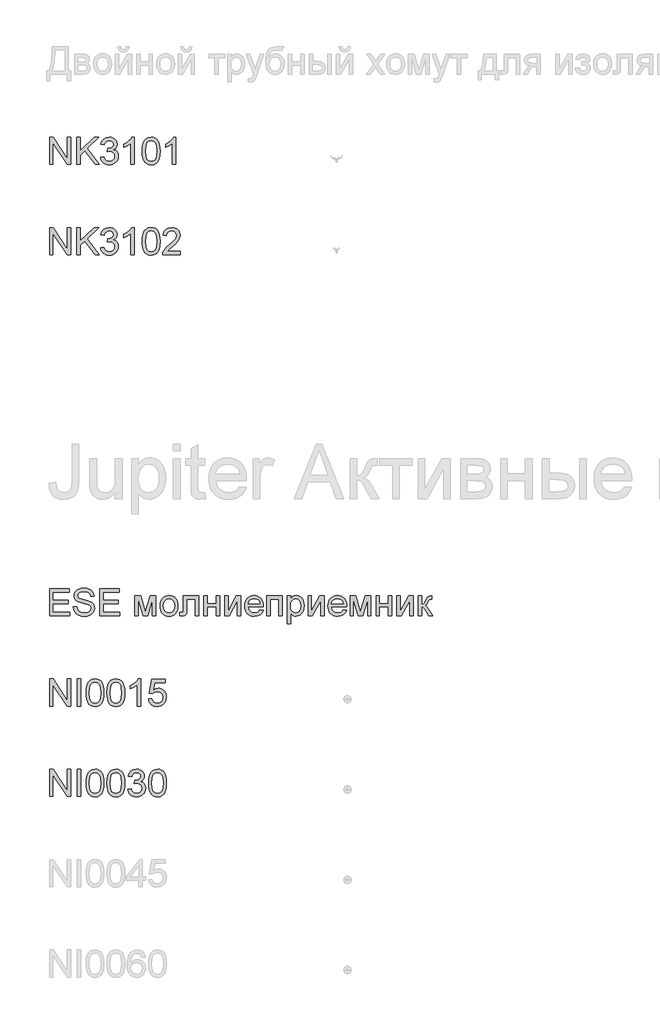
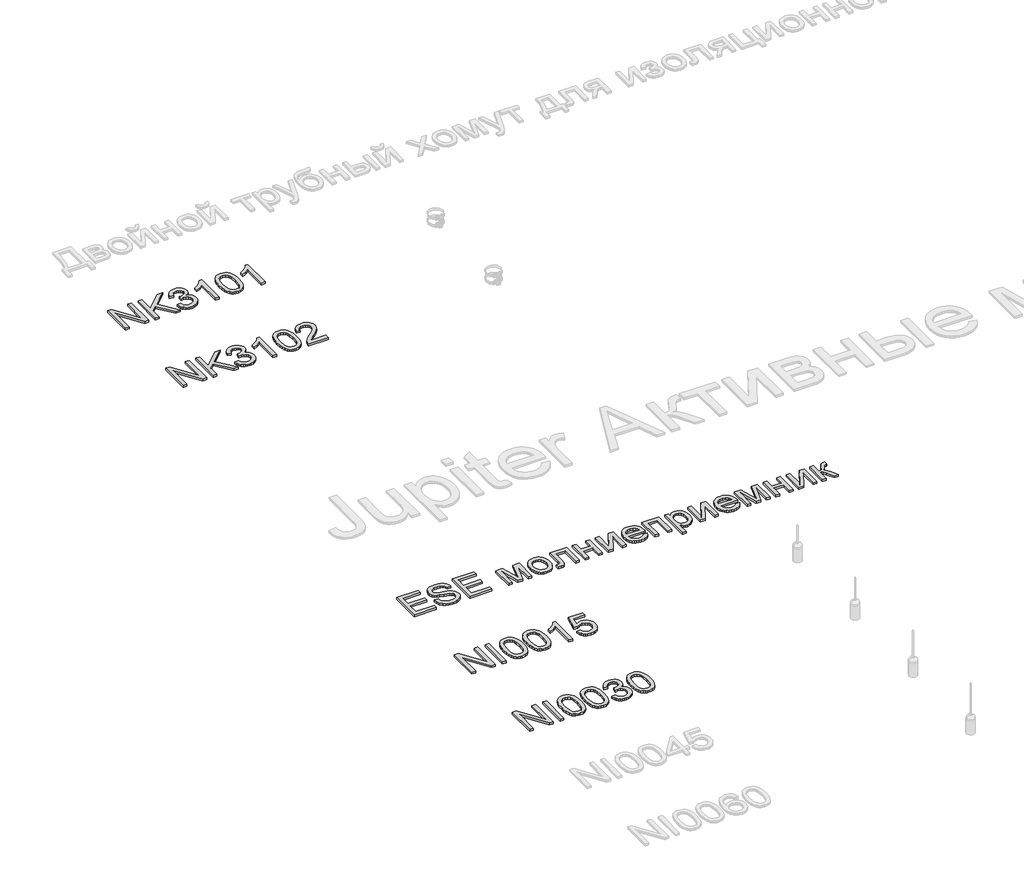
# One storey, part 12 of 124: 5 proxies.
"""IFC4 building model written with IfcOpenShell, lengths in millimetres."""

from ifc_helpers import new_model, si_unit, origin, origin_with_axes, place, context, project, spatial, polyline, outline, extrude, element, save

model = new_model("IFC4")

# Units and contexts
model_context = context("Model", 3, world=origin())
ifc_project = project(units=[si_unit("LENGTHUNIT", "METRE", prefix="MILLI")], contexts=[model_context])

# Site, building, storey
site = spatial("IfcSite", under=ifc_project)
building = spatial("IfcBuilding", under=site)
storey = spatial("IfcBuildingStorey", under=building, Name="Этаж 01", Elevation=0.0)

# Proxies
placement = place(None, origin())
element("IfcBuildingElementProxy", 1, Name="300", ObjectType="300", at=placement, inside=storey, context=model_context, shape_type="SweptSolid", body=[
    extrude(outline(polyline([(25399.8220677, -114548.8731539), (25399.8220677, -114247.5042234), (25440.1419344, -114247.5042234), (25597.5954283, -114486.2596383), (25597.5954283, -114247.5042234), (25635.2665446, -114247.5042234), (25635.2665446, -114548.8731539), (25594.9466779, -114548.8731539), (25437.493184, -114310.0441626), (25437.493184, -114548.8731539), (25399.8220677, -114548.8731539)])), origin_with_axes(), (0.0, 0.0, 1.0), 20.0),
    extrude(outline(polyline([(25701.1909981, -114548.8731539), (25701.1909981, -114247.5042234), (25738.8621144, -114247.5042234), (25738.8621144, -114395.0249035), (25893.3725524, -114247.5042234), (25946.0532541, -114247.5042234), (25816.3380626, -114371.4068794), (25950.7621437, -114548.8731539), (25904.7033179, -114548.8731539), (25789.6298298, -114396.8643135), (25738.8621144, -114445.277584), (25738.8621144, -114548.8731539), (25701.1909981, -114548.8731539)])), origin_with_axes(), (0.0, 0.0, 1.0), 20.0),
    extrude(outline(polyline([(25964.8888123, -114468.8220317), (26002.5599286, -114464.1131422), (26010.9936233, -114487.7863486), (26023.3452613, -114503.7708213), (26040.2218478, -114512.8759007), (26062.2303882, -114515.9109271), (26088.0557043, -114511.7354665), (26107.9949084, -114499.2090845), (26120.7420195, -114480.5206792), (26124.9910566, -114457.8591483), (26120.7788077, -114436.3472486), (26108.1420612, -114418.900445), (26089.0121975, -114407.3397533), (26065.320597, -114403.4861894), (26038.9066697, -114407.6064677), (26043.1005245, -114369.9353514), (26049.1337892, -114370.3768098), (26071.7033496, -114367.6728772), (26091.881677, -114359.5610792), (26106.1187102, -114345.8390807), (26110.864388, -114326.3045468), (26107.4246913, -114310.0349656), (26097.1056014, -114296.837199), (26081.360252, -114288.0908046), (26061.641777, -114285.1753397), (26041.8865139, -114288.1183957), (26025.7364943, -114296.9475636), (26013.9458763, -114311.6628434), (26007.2688181, -114332.2642351), (25969.5977018, -114327.5553456), (25980.689344, -114293.7285961), (26000.426213, -114268.4734972), (26027.4287515, -114252.7465419), (26060.3174018, -114247.5042234), (26083.9998053, -114250.0885945), (26105.7508282, -114257.8417075), (26124.0897457, -114270.0737838), (26137.5358326, -114286.0950447), (26145.7855864, -114304.5535238), (26148.5355043, -114324.0972548), (26145.9235421, -114342.3074136), (26138.0876556, -114358.8253152), (26125.1382094, -114372.8968015), (26107.185568, -114383.7677145), (26130.7668039, -114393.2958581), (26148.2411987, -114409.5194541), (26159.0569293, -114431.5555856), (26162.6621729, -114458.5213359), (26160.8595511, -114477.6328055), (26155.4516858, -114495.235959), (26146.4385769, -114511.3307963), (26133.8202245, -114525.9173174), (26118.4473556, -114538.020635), (26101.1706974, -114546.6658619), (26081.9902499, -114551.852998), (26060.906013, -114553.5820434), (26041.8497257, -114552.1059169), (26024.4856955, -114547.6775374), (26008.8139225, -114540.2969049), (25994.8344067, -114529.9640193), (25983.1127666, -114517.2858861), (25974.2146209, -114502.8695104), (25968.1399694, -114486.7148923), (25964.8888123, -114468.8220317)])), origin_with_axes(), (0.0, 0.0, 1.0), 20.0),
    extrude(outline(polyline([(26336.8910858, -114548.8731539), (26299.2199695, -114548.8731539), (26299.2199695, -114314.0172882), (26263.535416, -114339.437934), (26223.8777369, -114358.4574332), (26223.8777369, -114322.846456), (26253.4646464, -114306.7516188), (26279.0968244, -114287.6033609), (26299.302743, -114267.2410925), (26312.6108741, -114247.5042234), (26336.8910858, -114247.5042234), (26336.8910858, -114548.8731539)])), origin_with_axes(), (0.0, 0.0, 1.0), 20.0),
    extrude(outline(polyline([(26426.359987, -114400.6167098), (26429.128299, -114352.3781832), (26437.4332351, -114313.9069236), (26451.1920217, -114284.6143197), (26470.3218855, -114263.9117604), (26494.9607821, -114251.6061077), (26525.2466673, -114247.5042234), (26548.4600212, -114249.9322446), (26569.245354, -114257.2163081), (26586.6277782, -114269.0713054), (26599.6324068, -114285.2121279), (26609.454856, -114305.50082), (26617.2907425, -114329.7994258), (26622.4226964, -114360.6555281), (26624.1333476, -114400.6167098), (26621.3926268, -114448.579325), (26613.1704642, -114486.9586141), (26599.494451, -114516.2788091), (26580.3921784, -114537.0641418), (26555.6980995, -114549.452568), (26525.2466673, -114553.5820434), (26504.4981228, -114551.7886187), (26486.1040231, -114546.4083445), (26470.0643681, -114537.4412209), (26456.3791578, -114524.8872478), (26443.2457706, -114502.1935272), (26433.8647797, -114473.9171974), (26428.2361852, -114440.0582582), (26426.359987, -114400.6167098)]), holes=[polyline([(26464.0311033, -114400.5431334), (26468.4456873, -114459.7997258), (26473.9639172, -114480.0677245), (26481.6894391, -114494.0955248), (26501.4079141, -114510.4570765), (26525.2466673, -114515.9109271), (26549.0854206, -114510.4386824), (26568.8038956, -114494.0219484), (26576.5294175, -114479.9711555), (26582.0476474, -114459.7077553), (26586.4622313, -114400.5431334), (26582.1948002, -114342.6201133), (26576.8605113, -114322.4187932), (26569.3925068, -114308.0575998), (26549.71082, -114290.8959048), (26524.8052089, -114285.1753397), (26501.2239731, -114290.2153231), (26482.2780503, -114305.3352731), (26474.295011, -114320.9702579), (26468.5928401, -114342.0498962), (26464.0311033, -114400.5431334)])]), origin_with_axes(), (0.0, 0.0, 1.0), 20.0),
    extrude(outline(polyline([(26798.3622606, -114548.8731539), (26760.6911443, -114548.8731539), (26760.6911443, -114314.0172882), (26725.0065907, -114339.437934), (26685.3489116, -114358.4574332), (26685.3489116, -114322.846456), (26714.9358211, -114306.7516188), (26740.5679991, -114287.6033609), (26760.7739177, -114267.2410925), (26774.0820489, -114247.5042234), (26798.3622606, -114247.5042234), (26798.3622606, -114548.8731539)])), origin_with_axes(), (0.0, 0.0, 1.0), 20.0),
])
element("IfcBuildingElementProxy", 2, Name="300", ObjectType="300", at=placement, inside=storey, context=model_context, shape_type="SweptSolid", body=[
    extrude(outline(polyline([(25399.8220677, -115548.8731539), (25399.8220677, -115247.5042234), (25440.1419344, -115247.5042234), (25597.5954283, -115486.2596383), (25597.5954283, -115247.5042234), (25635.2665446, -115247.5042234), (25635.2665446, -115548.8731539), (25594.9466779, -115548.8731539), (25437.493184, -115310.0441626), (25437.493184, -115548.8731539), (25399.8220677, -115548.8731539)])), origin_with_axes(), (0.0, 0.0, 1.0), 20.0),
    extrude(outline(polyline([(25701.1909981, -115548.8731539), (25701.1909981, -115247.5042234), (25738.8621144, -115247.5042234), (25738.8621144, -115395.0249035), (25893.3725524, -115247.5042234), (25946.0532541, -115247.5042234), (25816.3380626, -115371.4068794), (25950.7621437, -115548.8731539), (25904.7033179, -115548.8731539), (25789.6298298, -115396.8643135), (25738.8621144, -115445.277584), (25738.8621144, -115548.8731539), (25701.1909981, -115548.8731539)])), origin_with_axes(), (0.0, 0.0, 1.0), 20.0),
    extrude(outline(polyline([(25964.8888123, -115468.8220317), (26002.5599286, -115464.1131422), (26010.9936233, -115487.7863486), (26023.3452613, -115503.7708213), (26040.2218478, -115512.8759007), (26062.2303882, -115515.9109271), (26088.0557043, -115511.7354665), (26107.9949084, -115499.2090845), (26120.7420195, -115480.5206792), (26124.9910566, -115457.8591483), (26120.7788077, -115436.3472486), (26108.1420612, -115418.900445), (26089.0121975, -115407.3397533), (26065.320597, -115403.4861894), (26038.9066697, -115407.6064677), (26043.1005245, -115369.9353514), (26049.1337892, -115370.3768098), (26071.7033496, -115367.6728772), (26091.881677, -115359.5610792), (26106.1187102, -115345.8390807), (26110.864388, -115326.3045468), (26107.4246913, -115310.0349656), (26097.1056014, -115296.837199), (26081.360252, -115288.0908046), (26061.641777, -115285.1753397), (26041.8865139, -115288.1183957), (26025.7364943, -115296.9475636), (26013.9458763, -115311.6628434), (26007.2688181, -115332.2642351), (25969.5977018, -115327.5553456), (25980.689344, -115293.7285961), (26000.426213, -115268.4734972), (26027.4287515, -115252.7465419), (26060.3174018, -115247.5042234), (26083.9998053, -115250.0885945), (26105.7508282, -115257.8417075), (26124.0897457, -115270.0737838), (26137.5358326, -115286.0950447), (26145.7855864, -115304.5535238), (26148.5355043, -115324.0972548), (26145.9235421, -115342.3074136), (26138.0876556, -115358.8253152), (26125.1382094, -115372.8968015), (26107.185568, -115383.7677145), (26130.7668039, -115393.2958581), (26148.2411987, -115409.5194541), (26159.0569293, -115431.5555856), (26162.6621729, -115458.5213359), (26160.8595511, -115477.6328055), (26155.4516858, -115495.235959), (26146.4385769, -115511.3307963), (26133.8202245, -115525.9173174), (26118.4473556, -115538.020635), (26101.1706974, -115546.6658619), (26081.9902499, -115551.852998), (26060.906013, -115553.5820434), (26041.8497257, -115552.1059169), (26024.4856955, -115547.6775374), (26008.8139225, -115540.2969049), (25994.8344067, -115529.9640193), (25983.1127666, -115517.2858861), (25974.2146209, -115502.8695104), (25968.1399694, -115486.7148923), (25964.8888123, -115468.8220317)])), origin_with_axes(), (0.0, 0.0, 1.0), 20.0),
    extrude(outline(polyline([(26336.8910858, -115548.8731539), (26299.2199695, -115548.8731539), (26299.2199695, -115314.0172882), (26263.535416, -115339.437934), (26223.8777369, -115358.4574332), (26223.8777369, -115322.846456), (26253.4646464, -115306.7516188), (26279.0968244, -115287.6033609), (26299.302743, -115267.2410925), (26312.6108741, -115247.5042234), (26336.8910858, -115247.5042234), (26336.8910858, -115548.8731539)])), origin_with_axes(), (0.0, 0.0, 1.0), 20.0),
    extrude(outline(polyline([(26426.359987, -115400.6167098), (26429.128299, -115352.3781832), (26437.4332351, -115313.9069236), (26451.1920217, -115284.6143197), (26470.3218855, -115263.9117604), (26494.9607821, -115251.6061077), (26525.2466673, -115247.5042234), (26548.4600212, -115249.9322446), (26569.245354, -115257.2163081), (26586.6277782, -115269.0713054), (26599.6324068, -115285.2121279), (26609.454856, -115305.50082), (26617.2907425, -115329.7994258), (26622.4226964, -115360.6555281), (26624.1333476, -115400.6167098), (26621.3926268, -115448.579325), (26613.1704642, -115486.9586141), (26599.494451, -115516.2788091), (26580.3921784, -115537.0641418), (26555.6980995, -115549.452568), (26525.2466673, -115553.5820434), (26504.4981228, -115551.7886187), (26486.1040231, -115546.4083445), (26470.0643681, -115537.4412209), (26456.3791578, -115524.8872478), (26443.2457706, -115502.1935272), (26433.8647797, -115473.9171974), (26428.2361852, -115440.0582582), (26426.359987, -115400.6167098)]), holes=[polyline([(26464.0311033, -115400.5431334), (26468.4456873, -115459.7997258), (26473.9639172, -115480.0677245), (26481.6894391, -115494.0955248), (26501.4079141, -115510.4570765), (26525.2466673, -115515.9109271), (26549.0854206, -115510.4386824), (26568.8038956, -115494.0219484), (26576.5294175, -115479.9711555), (26582.0476474, -115459.7077553), (26586.4622313, -115400.5431334), (26582.1948002, -115342.6201133), (26576.8605113, -115322.4187932), (26569.3925068, -115308.0575998), (26549.71082, -115290.8959048), (26524.8052089, -115285.1753397), (26501.2239731, -115290.2153231), (26482.2780503, -115305.3352731), (26474.295011, -115320.9702579), (26468.5928401, -115342.0498962), (26464.0311033, -115400.5431334)])]), origin_with_axes(), (0.0, 0.0, 1.0), 20.0),
    extrude(outline(polyline([(26850.1600455, -115511.2020376), (26850.1600455, -115548.8731539), (26652.3866849, -115548.8731539), (26656.4333868, -115522.900685), (26665.7224072, -115502.6027959), (26679.3156469, -115482.9119122), (26698.9789396, -115462.3013234), (26726.4781187, -115439.2443193), (26767.1290792, -115403.1367015), (26791.5196554, -115376.4836509), (26803.7149436, -115354.8521896), (26807.7800396, -115333.8093395), (26803.9448698, -115314.9461902), (26792.4393604, -115299.2652202), (26774.7534335, -115288.6978098), (26752.3770112, -115285.1753397), (26728.8785487, -115288.6150364), (26710.6224047, -115298.9341264), (26698.8409838, -115315.3232692), (26694.7666907, -115336.9731247), (26657.0955744, -115332.2642351), (26666.2282449, -115295.8255235), (26674.7746035, -115281.2895862), (26685.974311, -115269.2092612), (26699.56985, -115259.7133072), (26715.3037031, -115252.9304829), (26753.1863516, -115247.5042234), (26773.3761753, -115249.0125396), (26791.3449115, -115253.5374882), (26807.0925602, -115261.0790691), (26820.6191213, -115271.6372823), (26831.4831364, -115284.4303787), (26839.2431473, -115298.676609), (26843.8991538, -115314.3759731), (26845.4511559, -115331.5284711), (26843.7772929, -115349.5454918), (26838.7557036, -115367.2498129), (26829.8437623, -115385.2576365), (26816.4988429, -115404.1851652), (26795.2260665, -115426.7823167), (26762.5305542, -115455.7990091), (26719.1940552, -115492.0353856), (26702.197907, -115511.2020376), (26850.1600455, -115511.2020376)])), origin_with_axes(), (0.0, 0.0, 1.0), 20.0),
])
element("IfcBuildingElementProxy", 3, Name="300", ObjectType="300", at=placement, inside=storey, context=model_context, shape_type="SweptSolid", body=[
    extrude(outline(polyline([(25399.8220677, -119548.8731539), (25399.8220677, -119247.5042234), (25616.4309865, -119247.5042234), (25616.4309865, -119285.1753397), (25437.493184, -119285.1753397), (25437.493184, -119374.644241), (25607.0132074, -119374.644241), (25607.0132074, -119412.3153573), (25437.493184, -119412.3153573), (25437.493184, -119511.2020376), (25621.139876, -119511.2020376), (25621.139876, -119548.8731539), (25399.8220677, -119548.8731539)])), origin_with_axes(), (0.0, 0.0, 1.0), 20.0),
    extrude(outline(polyline([(25663.5198818, -119445.277584), (25701.1909981, -119445.277584), (25705.5136116, -119466.1824784), (25713.331104, -119482.9854885), (25725.5263921, -119496.3212109), (25742.9823928, -119506.8242418), (25764.3195485, -119513.6392558), (25788.1583018, -119515.9109271), (25809.1459696, -119514.1910788), (25827.5216753, -119509.0315338), (25842.411699, -119500.8645535), (25852.9423212, -119490.1223993), (25859.2055121, -119477.7891554), (25861.2932424, -119464.8489062), (25859.729744, -119452.2397508), (25855.0392485, -119441.3412467), (25845.5111049, -119432.0430293), (25829.4346617, -119424.2347339), (25774.5834562, -119409.8505479), (25738.5770059, -119400.3316013), (25715.538396, -119391.2725072), (25696.7856113, -119378.5989724), (25683.4958742, -119363.2398991), (25675.5772142, -119345.5263811), (25672.9376609, -119325.789512), (25676.2026136, -119303.7257893), (25685.9974717, -119283.1519888), (25702.0647179, -119265.7143822), (25724.1468346, -119253.0592416), (25750.6527324, -119245.3613108), (25779.9913215, -119242.7953339), (25811.7763259, -119245.4808725), (25839.5882047, -119253.5374882), (25862.4336766, -119266.7996341), (25879.3194602, -119285.1017633), (25890.0064322, -119307.3034418), (25894.2554692, -119332.2642351), (25856.5843529, -119332.2642351), (25849.6681714, -119309.7866452), (25835.2471972, -119293.5630492), (25812.714425, -119283.7406), (25781.4628495, -119280.4664502), (25749.47551, -119283.7038118), (25727.531349, -119293.4158964), (25714.8394202, -119307.7081119), (25710.6087772, -119324.685866), (25713.6070155, -119339.1620225), (25722.6017303, -119350.8054877), (25743.8653096, -119361.2165481), (25784.1115999, -119371.8483378), (25825.6454771, -119381.9466986), (25850.7718174, -119390.7574724), (25872.2469288, -119404.4242885), (25887.2289231, -119421.291678), (25896.0304998, -119441.1756998), (25898.9643587, -119463.892413), (25895.5890414, -119487.1149639), (25885.4630895, -119508.9579574), (25869.0003702, -119527.7567274), (25846.6147508, -119541.8466078), (25819.6949858, -119550.6481845), (25789.6298298, -119553.5820434), (25752.7220686, -119550.4182583), (25722.3442129, -119540.9269028), (25698.1467746, -119525.0711888), (25679.780266, -119502.8143281), (25667.9896481, -119475.701425), (25663.5198818, -119445.277584)])), origin_with_axes(), (0.0, 0.0, 1.0), 20.0),
    extrude(outline(polyline([(25955.4710332, -119548.8731539), (25955.4710332, -119247.5042234), (26172.079952, -119247.5042234), (26172.079952, -119285.1753397), (25993.1421495, -119285.1753397), (25993.1421495, -119374.644241), (26162.6621729, -119374.644241), (26162.6621729, -119412.3153573), (25993.1421495, -119412.3153573), (25993.1421495, -119511.2020376), (26176.7888415, -119511.2020376), (26176.7888415, -119548.8731539), (25955.4710332, -119548.8731539)])), origin_with_axes(), (0.0, 0.0, 1.0), 20.0),
    extrude(outline(polyline([(26346.3088649, -119327.5553456), (26411.1296724, -119327.5553456), (26461.0880474, -119504.7273145), (26514.9459715, -119327.5553456), (26577.0444523, -119327.5553456), (26577.0444523, -119548.8731539), (26539.373336, -119548.8731539), (26539.373336, -119370.6711154), (26485.2211063, -119548.8731539), (26435.7777661, -119548.8731539), (26383.9799812, -119362.1362531), (26383.9799812, -119548.8731539), (26346.3088649, -119548.8731539), (26346.3088649, -119327.5553456)])), origin_with_axes(), (0.0, 0.0, 1.0), 20.0),
    extrude(outline(polyline([(26624.1333476, -119438.2142497), (26626.1704942, -119409.5516438), (26632.2819338, -119384.8529663), (26642.4676666, -119364.1182174), (26656.7276924, -119347.3473969), (26671.0842873, -119336.6282353), (26686.9308042, -119328.9716913), (26704.2672432, -119324.3777649), (26723.0936043, -119322.846456), (26743.8766378, -119324.7111579), (26762.66851, -119330.3052635), (26779.4692208, -119339.6287728), (26794.2787704, -119352.6816859), (26806.3659932, -119369.0225442), (26814.9997238, -119388.2098895), (26820.1799621, -119410.2437218), (26821.9067082, -119435.124041), (26818.8532877, -119473.1814334), (26809.693026, -119502.1521405), (26794.6926377, -119523.8479812), (26774.1188371, -119540.0807742), (26749.6822755, -119550.2067261), (26723.0936043, -119553.5820434), (26702.0070682, -119551.7242393), (26683.0404521, -119546.1508271), (26666.193756, -119536.8618067), (26651.4669799, -119523.8571782), (26639.5085158, -119507.3576707), (26630.9667557, -119487.5840135), (26625.8416997, -119464.5362065), (26624.1333476, -119438.2142497)]), holes=[polyline([(26661.8044639, -119438.1406733), (26666.1638656, -119472.2341372), (26679.2420705, -119496.523546), (26698.9237573, -119511.0640818), (26723.0936043, -119515.9109271), (26747.1530868, -119511.0364907), (26766.7979854, -119496.4131814), (26779.8761903, -119471.8018759), (26784.2355919, -119436.963451), (26779.8485992, -119403.8632684), (26766.6876208, -119379.9049535), (26747.0151311, -119365.3644176), (26723.0936043, -119360.5175724), (26698.9237573, -119365.3460235), (26679.2420705, -119379.8313771), (26666.1638656, -119404.0656035), (26661.8044639, -119438.1406733)])]), origin_with_axes(), (0.0, 0.0, 1.0), 20.0),
    extrude(outline(polyline([(26883.1222722, -119327.5553456), (27052.6422956, -119327.5553456), (27052.6422956, -119548.6524247), (27014.9711793, -119548.6524247), (27014.9711793, -119365.2264619), (26920.7933886, -119365.2264619), (26920.7933886, -119470.8085945), (26918.2550028, -119519.5161707), (26913.500128, -119530.5434335), (26904.3122752, -119540.0807742), (26890.3695476, -119546.675059), (26871.3500484, -119548.8731539), (26840.7422664, -119546.9601675), (26840.7422664, -119511.2020376), (26857.5912618, -119511.2020376), (26874.6241982, -119508.884381), (26881.4300151, -119501.5267411), (26883.1222722, -119468.6748789), (26883.1222722, -119327.5553456)])), origin_with_axes(), (0.0, 0.0, 1.0), 20.0),
    extrude(outline(polyline([(27109.1489701, -119327.5553456), (27146.8200864, -119327.5553456), (27146.8200864, -119412.3153573), (27245.7067667, -119412.3153573), (27245.7067667, -119327.5553456), (27283.377883, -119327.5553456), (27283.377883, -119548.8731539), (27245.7067667, -119548.8731539), (27245.7067667, -119449.9864736), (27146.8200864, -119449.9864736), (27146.8200864, -119548.8731539), (27109.1489701, -119548.8731539), (27109.1489701, -119327.5553456)])), origin_with_axes(), (0.0, 0.0, 1.0), 20.0),
    extrude(outline(polyline([(27339.8845575, -119327.5553456), (27377.5556738, -119327.5553456), (27377.5556738, -119496.339605), (27470.1147838, -119327.5553456), (27518.8223599, -119327.5553456), (27518.8223599, -119548.8731539), (27481.1512436, -119548.8731539), (27481.1512436, -119381.1189641), (27389.1807448, -119548.8731539), (27339.8845575, -119548.8731539), (27339.8845575, -119327.5553456)])), origin_with_axes(), (0.0, 0.0, 1.0), 20.0),
    extrude(outline(polyline([(27730.2809307, -119482.9487003), (27767.2162831, -119487.6575899), (27753.9081519, -119515.4878628), (27732.6721637, -119536.2915897), (27703.9865651, -119549.25943), (27668.3296028, -119553.5820434), (27644.9553005, -119551.7173416), (27624.128581, -119546.123236), (27605.8494444, -119536.7997267), (27590.1178906, -119523.7468136), (27577.4673485, -119507.3277803), (27568.431247, -119487.9059102), (27563.0095861, -119465.4812034), (27561.2023658, -119440.0536597), (27563.0279802, -119413.7638926), (27568.5048234, -119390.5919255), (27577.6328954, -119370.5377582), (27590.4121962, -119353.6013908), (27606.1023633, -119340.1461069), (27623.9630341, -119330.5351897), (27643.9942088, -119324.7686395), (27666.1958872, -119322.846456), (27687.682495, -119324.7640409), (27707.1135621, -119330.5167956), (27724.4890886, -119340.1047201), (27739.8090744, -119353.5278144), (27752.314763, -119370.4273936), (27761.2473977, -119390.4447727), (27766.6069785, -119413.5799516), (27768.3935054, -119439.8329305), (27768.1727762, -119449.9864736), (27598.8734821, -119449.9864736), (27605.3941904, -119478.1846285), (27620.5417316, -119498.9147789), (27642.4031191, -119511.6618901), (27669.0653667, -119515.9109271), (27689.1149355, -119513.9427584), (27706.0007191, -119508.0382524), (27719.7227175, -119497.8295271), (27730.2809307, -119482.9487003)]), holes=[polyline([(27598.8734821, -119412.3153573), (27730.7223891, -119412.3153573), (27725.6272235, -119392.4129413), (27715.6392273, -119378.1759081), (27693.6766722, -119364.9321563), (27666.0487344, -119360.5175724), (27640.6556797, -119364.0400425), (27619.6588148, -119374.6074528), (27605.0630966, -119391.0793691), (27598.8734821, -119412.3153573)])]), origin_with_axes(), (0.0, 0.0, 1.0), 20.0),
    extrude(outline(polyline([(27806.0646217, -119327.5553456), (27975.5846451, -119327.5553456), (27975.5846451, -119548.8731539), (27937.9135288, -119548.8731539), (27937.9135288, -119365.2264619), (27843.7357381, -119365.2264619), (27843.7357381, -119548.8731539), (27806.0646217, -119548.8731539), (27806.0646217, -119327.5553456)])), origin_with_axes(), (0.0, 0.0, 1.0), 20.0),
    extrude(outline(polyline([(28032.0913196, -119633.6331656), (28032.0913196, -119327.5553456), (28069.7624359, -119327.5553456), (28069.7624359, -119364.4906979), (28082.0496945, -119346.2713421), (28095.8084811, -119333.2575165), (28111.8481361, -119325.4492212), (28130.9779999, -119322.846456), (28156.4538281, -119326.4884878), (28178.7290829, -119337.4145831), (28196.8656652, -119354.9625542), (28209.9254761, -119378.4702137), (28217.8165448, -119406.2269103), (28220.4469011, -119436.5219926), (28217.476254, -119468.7392583), (28208.5643127, -119497.5536156), (28193.9961857, -119521.5027334), (28174.0569815, -119539.124281), (28150.8344306, -119549.9676028), (28126.4162631, -119553.5820434), (28109.0982182, -119551.1632193), (28093.6379774, -119543.906747), (28080.4034226, -119532.9530605), (28069.7624359, -119519.4425943), (28069.7624359, -119633.6331656), (28032.0913196, -119633.6331656)]), holes=[polyline([(28069.7624359, -119439.9800833), (28073.836729, -119473.7516505), (28086.0596083, -119497.3696746), (28104.0950231, -119511.275614), (28125.6069228, -119515.9109271), (28147.4683103, -119511.1100671), (28165.9635776, -119496.707487), (28178.572733, -119472.2249402), (28182.7757848, -119437.1841801), (28178.6739006, -119403.596554), (28166.3682478, -119379.6474361), (28148.3604242, -119365.3000383), (28127.1520271, -119360.5175724), (28105.8608567, -119365.6035409), (28087.1632543, -119380.8614467), (28074.1126405, -119405.813043), (28069.7624359, -119439.9800833)])]), origin_with_axes(), (0.0, 0.0, 1.0), 20.0),
    extrude(outline(polyline([(28262.826907, -119327.5553456), (28300.4980233, -119327.5553456), (28300.4980233, -119496.339605), (28393.0571333, -119327.5553456), (28441.7647094, -119327.5553456), (28441.7647094, -119548.8731539), (28404.0935931, -119548.8731539), (28404.0935931, -119381.1189641), (28312.1230943, -119548.8731539), (28262.826907, -119548.8731539), (28262.826907, -119327.5553456)])), origin_with_axes(), (0.0, 0.0, 1.0), 20.0),
    extrude(outline(polyline([(28653.2232802, -119482.9487003), (28690.1586326, -119487.6575899), (28676.8505014, -119515.4878628), (28655.6145132, -119536.2915897), (28626.9289146, -119549.25943), (28591.2719523, -119553.5820434), (28567.89765, -119551.7173416), (28547.0709305, -119546.123236), (28528.7917939, -119536.7997267), (28513.0602401, -119523.7468136), (28500.409698, -119507.3277803), (28491.3735965, -119487.9059102), (28485.9519356, -119465.4812034), (28484.1447153, -119440.0536597), (28485.9703297, -119413.7638926), (28491.4471729, -119390.5919255), (28500.5752449, -119370.5377582), (28513.3545457, -119353.6013908), (28529.0447128, -119340.1461069), (28546.9053836, -119330.5351897), (28566.9365583, -119324.7686395), (28589.1382367, -119322.846456), (28610.6248445, -119324.7640409), (28630.0559116, -119330.5167956), (28647.4314381, -119340.1047201), (28662.7514239, -119353.5278144), (28675.2571125, -119370.4273936), (28684.1897472, -119390.4447727), (28689.549328, -119413.5799516), (28691.3358549, -119439.8329305), (28691.1151257, -119449.9864736), (28521.8158316, -119449.9864736), (28528.3365399, -119478.1846285), (28543.4840811, -119498.9147789), (28565.3454686, -119511.6618901), (28592.0077162, -119515.9109271), (28612.057285, -119513.9427584), (28628.9430686, -119508.0382524), (28642.665067, -119497.8295271), (28653.2232802, -119482.9487003)]), holes=[polyline([(28521.8158316, -119412.3153573), (28653.6647386, -119412.3153573), (28648.569573, -119392.4129413), (28638.5815768, -119378.1759081), (28616.6190217, -119364.9321563), (28588.9910839, -119360.5175724), (28563.5980292, -119364.0400425), (28542.6011643, -119374.6074528), (28528.0054461, -119391.0793691), (28521.8158316, -119412.3153573)])]), origin_with_axes(), (0.0, 0.0, 1.0), 20.0),
    extrude(outline(polyline([(28729.0069712, -119327.5553456), (28793.8277788, -119327.5553456), (28843.7861537, -119504.7273145), (28897.6440778, -119327.5553456), (28959.7425586, -119327.5553456), (28959.7425586, -119548.8731539), (28922.0714423, -119548.8731539), (28922.0714423, -119370.6711154), (28867.9192126, -119548.8731539), (28818.4758725, -119548.8731539), (28766.6780876, -119362.1362531), (28766.6780876, -119548.8731539), (28729.0069712, -119548.8731539), (28729.0069712, -119327.5553456)])), origin_with_axes(), (0.0, 0.0, 1.0), 20.0),
    extrude(outline(polyline([(29016.2492331, -119327.5553456), (29053.9203494, -119327.5553456), (29053.9203494, -119412.3153573), (29152.8070297, -119412.3153573), (29152.8070297, -119327.5553456), (29190.478146, -119327.5553456), (29190.478146, -119548.8731539), (29152.8070297, -119548.8731539), (29152.8070297, -119449.9864736), (29053.9203494, -119449.9864736), (29053.9203494, -119548.8731539), (29016.2492331, -119548.8731539), (29016.2492331, -119327.5553456)])), origin_with_axes(), (0.0, 0.0, 1.0), 20.0),
    extrude(outline(polyline([(29246.9848205, -119327.5553456), (29284.6559368, -119327.5553456), (29284.6559368, -119496.339605), (29377.2150467, -119327.5553456), (29425.9226229, -119327.5553456), (29425.9226229, -119548.8731539), (29388.2515066, -119548.8731539), (29388.2515066, -119381.1189641), (29296.2810078, -119548.8731539), (29246.9848205, -119548.8731539), (29246.9848205, -119327.5553456)])), origin_with_axes(), (0.0, 0.0, 1.0), 20.0),
    extrude(outline(polyline([(29482.4292974, -119327.5553456), (29520.1004137, -119327.5553456), (29520.1004137, -119421.7331364), (29535.4226988, -119420.0408792), (29545.3371185, -119414.9641076), (29554.1111041, -119401.7203558), (29566.0120867, -119375.5271578), (29583.1921758, -119341.4980732), (29598.348914, -119330.4248251), (29625.9032755, -119327.5553456), (29633.1137626, -119327.5553456), (29633.1137626, -119365.4471911), (29622.9602195, -119365.2264619), (29604.5661198, -119369.1995874), (29591.6166735, -119393.9948339), (29576.4231471, -119420.8134314), (29555.1227796, -119433.9468186), (29567.0605504, -119439.2489178), (29578.8879565, -119448.6069161), (29602.211675, -119479.4906096), (29642.5315417, -119548.8731539), (29599.7100774, -119548.8731539), (29560.1995511, -119480.9621376), (29540.3339234, -119452.2305538), (29531.044903, -119447.0158265), (29520.1004137, -119445.277584), (29520.1004137, -119548.8731539), (29482.4292974, -119548.8731539), (29482.4292974, -119327.5553456)])), origin_with_axes(), (0.0, 0.0, 1.0), 20.0),
])
element("IfcBuildingElementProxy", 4, Name="300", ObjectType="300", at=placement, inside=storey, context=model_context, shape_type="SweptSolid", body=[
    extrude(outline(polyline([(25399.8220677, -120548.8731539), (25399.8220677, -120247.5042234), (25440.1419344, -120247.5042234), (25597.5954283, -120486.2596383), (25597.5954283, -120247.5042234), (25635.2665446, -120247.5042234), (25635.2665446, -120548.8731539), (25594.9466779, -120548.8731539), (25437.493184, -120310.0441626), (25437.493184, -120548.8731539), (25399.8220677, -120548.8731539)])), origin_with_axes(), (0.0, 0.0, 1.0), 20.0),
    extrude(outline(polyline([(25705.8998877, -120548.8731539), (25705.8998877, -120247.5042234), (25743.571004, -120247.5042234), (25743.571004, -120548.8731539), (25705.8998877, -120548.8731539)])), origin_with_axes(), (0.0, 0.0, 1.0), 20.0),
    extrude(outline(polyline([(25804.786568, -120400.6167098), (25807.55488, -120352.3781832), (25815.859816, -120313.9069236), (25829.6186027, -120284.6143197), (25848.7484664, -120263.9117604), (25873.387363, -120251.6061077), (25903.6732483, -120247.5042234), (25926.8866022, -120249.9322446), (25947.6719349, -120257.2163081), (25965.0543592, -120269.0713054), (25978.0589877, -120285.2121279), (25987.881437, -120305.50082), (25995.7173235, -120329.7994258), (26000.8492773, -120360.6555281), (26002.5599286, -120400.6167098), (25999.8192077, -120448.579325), (25991.5970451, -120486.9586141), (25977.921032, -120516.2788091), (25958.8187594, -120537.0641418), (25934.1246804, -120549.452568), (25903.6732483, -120553.5820434), (25882.9247038, -120551.7886187), (25864.530604, -120546.4083445), (25848.490949, -120537.4412209), (25834.8057388, -120524.8872478), (25821.6723516, -120502.1935272), (25812.2913607, -120473.9171974), (25806.6627662, -120440.0582582), (25804.786568, -120400.6167098)]), holes=[polyline([(25842.4576843, -120400.5431334), (25846.8722682, -120459.7997258), (25852.3904982, -120480.0677245), (25860.1160201, -120494.0955248), (25879.834495, -120510.4570765), (25903.6732483, -120515.9109271), (25927.5120016, -120510.4386824), (25947.2304765, -120494.0219484), (25954.9559984, -120479.9711555), (25960.4742283, -120459.7077553), (25964.8888123, -120400.5431334), (25960.6213811, -120342.6201133), (25955.2870922, -120322.4187932), (25947.8190877, -120308.0575998), (25928.137401, -120290.8959048), (25903.2317899, -120285.1753397), (25879.650554, -120290.2153231), (25860.7046313, -120305.3352731), (25852.721592, -120320.9702579), (25847.019421, -120342.0498962), (25842.4576843, -120400.5431334)])]), origin_with_axes(), (0.0, 0.0, 1.0), 20.0),
    extrude(outline(polyline([(26035.5221554, -120400.6167098), (26038.2904674, -120352.3781832), (26046.5954034, -120313.9069236), (26060.35419, -120284.6143197), (26079.4840538, -120263.9117604), (26104.1229504, -120251.6061077), (26134.4088357, -120247.5042234), (26157.6221896, -120249.9322446), (26178.4075223, -120257.2163081), (26195.7899466, -120269.0713054), (26208.7945751, -120285.2121279), (26218.6170244, -120305.50082), (26226.4529109, -120329.7994258), (26231.5848647, -120360.6555281), (26233.295516, -120400.6167098), (26230.5547951, -120448.579325), (26222.3326325, -120486.9586141), (26208.6566193, -120516.2788091), (26189.5543467, -120537.0641418), (26164.8602678, -120549.452568), (26134.4088357, -120553.5820434), (26113.6602911, -120551.7886187), (26095.2661914, -120546.4083445), (26079.2265364, -120537.4412209), (26065.5413262, -120524.8872478), (26052.4079389, -120502.1935272), (26043.0269481, -120473.9171974), (26037.3983535, -120440.0582582), (26035.5221554, -120400.6167098)]), holes=[polyline([(26073.1932717, -120400.5431334), (26077.6078556, -120459.7997258), (26083.1260855, -120480.0677245), (26090.8516074, -120494.0955248), (26110.5700824, -120510.4570765), (26134.4088357, -120515.9109271), (26158.247589, -120510.4386824), (26177.9660639, -120494.0219484), (26185.6915858, -120479.9711555), (26191.2098157, -120459.7077553), (26195.6243997, -120400.5431334), (26191.3569685, -120342.6201133), (26186.0226796, -120322.4187932), (26178.5546751, -120308.0575998), (26158.8729883, -120290.8959048), (26133.9673773, -120285.1753397), (26110.3861414, -120290.2153231), (26091.4402186, -120305.3352731), (26083.4571793, -120320.9702579), (26077.7550084, -120342.0498962), (26073.1932717, -120400.5431334)])]), origin_with_axes(), (0.0, 0.0, 1.0), 20.0),
    extrude(outline(polyline([(26407.5244289, -120548.8731539), (26369.8533126, -120548.8731539), (26369.8533126, -120314.0172882), (26334.168759, -120339.437934), (26294.51108, -120358.4574332), (26294.51108, -120322.846456), (26324.0979894, -120306.7516188), (26349.7301674, -120287.6033609), (26369.936086, -120267.2410925), (26383.2442172, -120247.5042234), (26407.5244289, -120247.5042234), (26407.5244289, -120548.8731539)])), origin_with_axes(), (0.0, 0.0, 1.0), 20.0),
    extrude(outline(polyline([(26496.9933301, -120468.8220317), (26534.6644464, -120464.1131422), (26541.5806279, -120486.7286879), (26553.6471574, -120502.9246927), (26570.8088524, -120512.6643685), (26593.0105309, -120515.9109271), (26620.0130693, -120511.3951756), (26640.246579, -120497.8479212), (26652.8833256, -120476.8326622), (26657.0955744, -120449.9128972), (26653.15004, -120424.5658277), (26641.3134368, -120405.1784466), (26621.4937943, -120392.8727938), (26593.599142, -120388.7709096), (26575.3246039, -120390.4079845), (26560.5265507, -120395.3192091), (26539.373336, -120412.3153573), (26501.7022196, -120407.6064677), (26534.6644464, -120252.213113), (26680.6400221, -120252.213113), (26680.6400221, -120289.8842293), (26565.1250756, -120289.8842293), (26549.0118442, -120372.8784074), (26575.9224122, -120356.5444468), (26604.1205671, -120351.0997933), (26622.4663824, -120352.7874519), (26639.317677, -120357.8504279), (26654.674451, -120366.2887212), (26668.5367045, -120378.1023317), (26680.0123234, -120392.5692912), (26688.2091942, -120408.9676311), (26693.1273166, -120427.2973515), (26694.7666907, -120447.5584524), (26688.8621847, -120485.2295687), (26681.4815522, -120502.0233818), (26671.1486666, -120517.4560315), (26655.4952877, -120533.2611617), (26637.2299467, -120544.5505404), (26616.3526434, -120551.3241677), (26592.8633781, -120553.5820434), (26555.8636464, -120547.7787049), (26540.1849756, -120540.5245319), (26526.3871015, -120530.3686895), (26514.906884, -120517.8170157), (26506.1811829, -120503.3753481), (26496.9933301, -120468.8220317)])), origin_with_axes(), (0.0, 0.0, 1.0), 20.0),
])
element("IfcBuildingElementProxy", 5, Name="300", ObjectType="300", at=placement, inside=storey, context=model_context, shape_type="SweptSolid", body=[
    extrude(outline(polyline([(25399.8220677, -121548.8731539), (25399.8220677, -121247.5042234), (25440.1419344, -121247.5042234), (25597.5954283, -121486.2596383), (25597.5954283, -121247.5042234), (25635.2665446, -121247.5042234), (25635.2665446, -121548.8731539), (25594.9466779, -121548.8731539), (25437.493184, -121310.0441626), (25437.493184, -121548.8731539), (25399.8220677, -121548.8731539)])), origin_with_axes(), (0.0, 0.0, 1.0), 20.0),
    extrude(outline(polyline([(25705.8998877, -121548.8731539), (25705.8998877, -121247.5042234), (25743.571004, -121247.5042234), (25743.571004, -121548.8731539), (25705.8998877, -121548.8731539)])), origin_with_axes(), (0.0, 0.0, 1.0), 20.0),
    extrude(outline(polyline([(25804.786568, -121400.6167098), (25807.55488, -121352.3781832), (25815.859816, -121313.9069236), (25829.6186027, -121284.6143197), (25848.7484664, -121263.9117604), (25873.387363, -121251.6061077), (25903.6732483, -121247.5042234), (25926.8866022, -121249.9322446), (25947.6719349, -121257.2163081), (25965.0543592, -121269.0713054), (25978.0589877, -121285.2121279), (25987.881437, -121305.50082), (25995.7173235, -121329.7994258), (26000.8492773, -121360.6555281), (26002.5599286, -121400.6167098), (25999.8192077, -121448.579325), (25991.5970451, -121486.9586141), (25977.921032, -121516.2788091), (25958.8187594, -121537.0641418), (25934.1246804, -121549.452568), (25903.6732483, -121553.5820434), (25882.9247038, -121551.7886187), (25864.530604, -121546.4083445), (25848.490949, -121537.4412209), (25834.8057388, -121524.8872478), (25821.6723516, -121502.1935272), (25812.2913607, -121473.9171974), (25806.6627662, -121440.0582582), (25804.786568, -121400.6167098)]), holes=[polyline([(25842.4576843, -121400.5431334), (25846.8722682, -121459.7997258), (25852.3904982, -121480.0677245), (25860.1160201, -121494.0955248), (25879.834495, -121510.4570765), (25903.6732483, -121515.9109271), (25927.5120016, -121510.4386824), (25947.2304765, -121494.0219484), (25954.9559984, -121479.9711555), (25960.4742283, -121459.7077553), (25964.8888123, -121400.5431334), (25960.6213811, -121342.6201133), (25955.2870922, -121322.4187932), (25947.8190877, -121308.0575998), (25928.137401, -121290.8959048), (25903.2317899, -121285.1753397), (25879.650554, -121290.2153231), (25860.7046313, -121305.3352731), (25852.721592, -121320.9702579), (25847.019421, -121342.0498962), (25842.4576843, -121400.5431334)])]), origin_with_axes(), (0.0, 0.0, 1.0), 20.0),
    extrude(outline(polyline([(26035.5221554, -121400.6167098), (26038.2904674, -121352.3781832), (26046.5954034, -121313.9069236), (26060.35419, -121284.6143197), (26079.4840538, -121263.9117604), (26104.1229504, -121251.6061077), (26134.4088357, -121247.5042234), (26157.6221896, -121249.9322446), (26178.4075223, -121257.2163081), (26195.7899466, -121269.0713054), (26208.7945751, -121285.2121279), (26218.6170244, -121305.50082), (26226.4529109, -121329.7994258), (26231.5848647, -121360.6555281), (26233.295516, -121400.6167098), (26230.5547951, -121448.579325), (26222.3326325, -121486.9586141), (26208.6566193, -121516.2788091), (26189.5543467, -121537.0641418), (26164.8602678, -121549.452568), (26134.4088357, -121553.5820434), (26113.6602911, -121551.7886187), (26095.2661914, -121546.4083445), (26079.2265364, -121537.4412209), (26065.5413262, -121524.8872478), (26052.4079389, -121502.1935272), (26043.0269481, -121473.9171974), (26037.3983535, -121440.0582582), (26035.5221554, -121400.6167098)]), holes=[polyline([(26073.1932717, -121400.5431334), (26077.6078556, -121459.7997258), (26083.1260855, -121480.0677245), (26090.8516074, -121494.0955248), (26110.5700824, -121510.4570765), (26134.4088357, -121515.9109271), (26158.247589, -121510.4386824), (26177.9660639, -121494.0219484), (26185.6915858, -121479.9711555), (26191.2098157, -121459.7077553), (26195.6243997, -121400.5431334), (26191.3569685, -121342.6201133), (26186.0226796, -121322.4187932), (26178.5546751, -121308.0575998), (26158.8729883, -121290.8959048), (26133.9673773, -121285.1753397), (26110.3861414, -121290.2153231), (26091.4402186, -121305.3352731), (26083.4571793, -121320.9702579), (26077.7550084, -121342.0498962), (26073.1932717, -121400.5431334)])]), origin_with_axes(), (0.0, 0.0, 1.0), 20.0),
    extrude(outline(polyline([(26266.2577427, -121468.8220317), (26303.928859, -121464.1131422), (26312.3625538, -121487.7863486), (26324.7141918, -121503.7708213), (26341.5907783, -121512.8759007), (26363.5993187, -121515.9109271), (26389.4246347, -121511.7354665), (26409.3638389, -121499.2090845), (26422.11095, -121480.5206792), (26426.359987, -121457.8591483), (26422.1477382, -121436.3472486), (26409.5109917, -121418.900445), (26390.3811279, -121407.3397533), (26366.6895274, -121403.4861894), (26340.2756002, -121407.6064677), (26344.4694549, -121369.9353514), (26350.5027196, -121370.3768098), (26373.07228, -121367.6728772), (26393.2506075, -121359.5610792), (26407.4876407, -121345.8390807), (26412.2333184, -121326.3045468), (26408.7936218, -121310.0349656), (26398.4745318, -121296.837199), (26382.7291824, -121288.0908046), (26363.0107075, -121285.1753397), (26343.2554443, -121288.1183957), (26327.1054247, -121296.9475636), (26315.3148068, -121311.6628434), (26308.6377486, -121332.2642351), (26270.9666323, -121327.5553456), (26282.0582744, -121293.7285961), (26301.7951435, -121268.4734972), (26328.7976819, -121252.7465419), (26361.6863323, -121247.5042234), (26385.3687357, -121250.0885945), (26407.1197587, -121257.8417075), (26425.4586761, -121270.0737838), (26438.9047631, -121286.0950447), (26447.1545168, -121304.5535238), (26449.9044347, -121324.0972548), (26447.2924726, -121342.3074136), (26439.4565861, -121358.8253152), (26426.5071398, -121372.8968015), (26408.5544985, -121383.7677145), (26432.1357344, -121393.2958581), (26449.6101291, -121409.5194541), (26460.4258598, -121431.5555856), (26464.0311033, -121458.5213359), (26462.2284816, -121477.6328055), (26456.8206162, -121495.235959), (26447.8075074, -121511.3307963), (26435.1891549, -121525.9173174), (26419.816286, -121538.020635), (26402.5396278, -121546.6658619), (26383.3591803, -121551.852998), (26362.2749435, -121553.5820434), (26343.2186561, -121552.1059169), (26325.854626, -121547.6775374), (26310.182853, -121540.2969049), (26296.2033371, -121529.9640193), (26284.4816971, -121517.2858861), (26275.5835513, -121502.8695104), (26269.5088999, -121486.7148923), (26266.2577427, -121468.8220317)])), origin_with_axes(), (0.0, 0.0, 1.0), 20.0),
    extrude(outline(polyline([(26496.9933301, -121400.6167098), (26499.7616421, -121352.3781832), (26508.0665782, -121313.9069236), (26521.8253648, -121284.6143197), (26540.9552285, -121263.9117604), (26565.5941252, -121251.6061077), (26595.8800104, -121247.5042234), (26619.0933643, -121249.9322446), (26639.878697, -121257.2163081), (26657.2611213, -121269.0713054), (26670.2657498, -121285.2121279), (26680.0881991, -121305.50082), (26687.9240856, -121329.7994258), (26693.0560394, -121360.6555281), (26694.7666907, -121400.6167098), (26692.0259699, -121448.579325), (26683.8038073, -121486.9586141), (26670.1277941, -121516.2788091), (26651.0255215, -121537.0641418), (26626.3314426, -121549.452568), (26595.8800104, -121553.5820434), (26575.1314659, -121551.7886187), (26556.7373661, -121546.4083445), (26540.6977111, -121537.4412209), (26527.0125009, -121524.8872478), (26513.8791137, -121502.1935272), (26504.4981228, -121473.9171974), (26498.8695283, -121440.0582582), (26496.9933301, -121400.6167098)]), holes=[polyline([(26534.6644464, -121400.5431334), (26539.0790304, -121459.7997258), (26544.5972603, -121480.0677245), (26552.3227822, -121494.0955248), (26572.0412571, -121510.4570765), (26595.8800104, -121515.9109271), (26619.7187637, -121510.4386824), (26639.4372386, -121494.0219484), (26647.1627605, -121479.9711555), (26652.6809905, -121459.7077553), (26657.0955744, -121400.5431334), (26652.8281433, -121342.6201133), (26647.4938543, -121322.4187932), (26640.0258498, -121308.0575998), (26620.3441631, -121290.8959048), (26595.438552, -121285.1753397), (26571.8573161, -121290.2153231), (26552.9113934, -121305.3352731), (26544.9283541, -121320.9702579), (26539.2261832, -121342.0498962), (26534.6644464, -121400.5431334)])]), origin_with_axes(), (0.0, 0.0, 1.0), 20.0),
])

save(model, "model.ifc")
